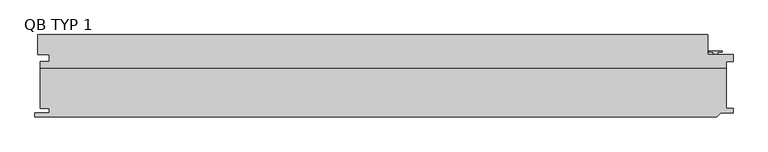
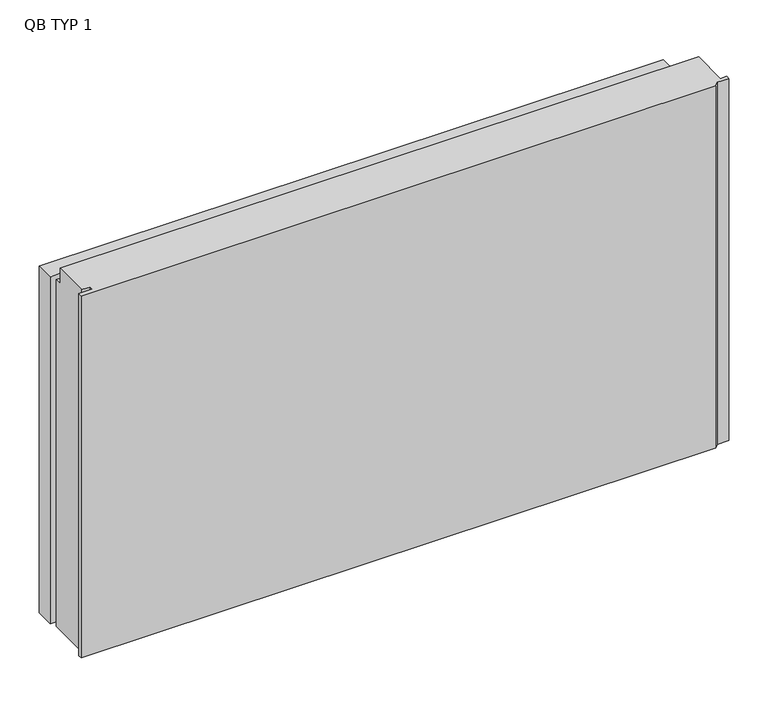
"""IFC4 building model written with IfcOpenShell, lengths in millimetres: plate geometry, TR_C_V_QBISS_Panel : QB TYP 1."""

from ifc_helpers import new_model, si_unit, frame, origin, place, context, project, spatial, polyline, outline, extrude, faceted_brep, source, transform, mapped, element, save


def qb_typ_1_ffcf64b0(model_context):
    return source(origin(), model_context, "Body", "SolidModel", [
        faceted_brep([(-500.0, -108.0, 612.4), (-487.0, -108.0, 612.4), (-487.0, -114.0, 612.4), (-508.0, -114.0, 612.4), (-508.0, -120.0, 612.4), (486.0, -120.0, 612.4), (492.0, -114.0, 612.4), (510.0, -114.0, 612.4), (510.0, -108.0, 612.4), (500.0, -108.0, 612.4), (500.0, -49.0, 612.4), (-500.0, -49.0, 612.4), (500.0, -108.0, 12.5), (510.0, -108.0, 12.5), (510.0, -114.0, 12.5), (492.0, -114.0, 12.5), (486.0, -120.0, 12.5), (-508.0, -120.0, 12.5), (-508.0, -114.0, 12.5), (-487.0, -114.0, 12.5), (-487.0, -108.0, 12.5), (-500.0, -108.0, 12.5), (-500.0, -49.0, 12.5), (500.0, -49.0, 12.5), (-500.0, -49.0, 12.7), (500.0, -49.0, 12.7), (-500.0, -39.0, 12.7), (-487.0, -39.0, 12.7), (-487.0, -29.0, 12.7), (-504.0, -29.0, 12.7), (-504.0, 0.0, 12.7), (473.0, 0.0, 12.7), (473.0, -29.0, 12.7), (510.0, -29.0, 12.7), (510.0, -39.0, 12.7), (500.0, -39.0, 12.7), (500.0, -39.0, 587.3), (500.0, -49.0, 587.3), (510.0, -39.0, 587.3), (510.0, -29.0, 587.3), (473.0, -29.0, 587.3), (473.0, 0.0, 587.3), (-504.0, 0.0, 587.3), (-504.0, -29.0, 587.3), (-487.0, -29.0, 587.3), (-487.0, -39.0, 587.3), (-500.0, -39.0, 587.3), (-500.0, -49.0, 587.3)], [[[0, 1, 2, 3, 4, 5, 6, 7, 8, 9, 10, 11]], [[12, 13, 14, 15, 16, 17, 18, 19, 20, 21, 22, 23]], [[24, 25, 23, 22]], [[25, 24, 26, 27, 28, 29, 30, 31, 32, 33, 34, 35]], [[1, 0, 21, 20]], [[2, 1, 20, 19]], [[3, 2, 19, 18]], [[4, 3, 18, 17]], [[5, 4, 17, 16]], [[6, 5, 16, 15]], [[7, 6, 15, 14]], [[8, 7, 14, 13]], [[9, 8, 13, 12]], [[9, 12, 23, 25, 35, 36, 37, 10]], [[35, 34, 38, 36]], [[34, 33, 39, 38]], [[33, 32, 40, 39]], [[32, 31, 41, 40]], [[31, 30, 42, 41]], [[30, 29, 43, 42]], [[29, 28, 44, 43]], [[28, 27, 45, 44]], [[27, 26, 46, 45]], [[21, 0, 11, 47, 46, 26, 24, 22]], [[37, 47, 11, 10]], [[47, 37, 36, 38, 39, 40, 41, 42, 43, 44, 45, 46]]]),
        extrude(outline(polyline([(494.5, -24.0), (494.5, -25.4998317), (487.7023593, -25.4998317), (487.7023593, -27.9998293), (488.5023593, -27.9998293), (488.5023593, -28.7998428), (480.5023028, -28.7998428), (480.5023028, -27.9998293), (481.3023028, -27.9998293), (481.3023028, -25.4998317), (474.5, -25.4998317), (474.5, -24.0), (494.5, -24.0)])), frame((0.0, 0.0, 12.5), z_axis=(0.0, 0.0, 1.0), x_axis=(1.0, 0.0, 0.0)), (0.0, 0.0, 1.0), 575.0),
        extrude(outline(polyline([(-48.2, -11.7), (-44.0, -11.7), (-44.0, -12.5), (-49.0, -12.5), (-49.0, 12.7), (-48.2, 12.7), (-48.2, -11.7)])), frame((-446.0, 0.0, 0.0), z_axis=(1.0, 0.0, 0.0), x_axis=(0.0, 1.0, 0.0)), (0.0, 0.0, 1.0), 862.0),
    ])


if __name__ == "__main__":
    model = new_model("IFC4")
    model_context = context("Model", 3, world=origin())
    ifc_project = project(units=[si_unit("LENGTHUNIT", "METRE", prefix="MILLI")], contexts=[model_context])
    site = spatial("IfcSite", under=ifc_project)
    building = spatial("IfcBuilding", under=site)
    placement = place(None, origin())
    qb_typ_1_shape = qb_typ_1_ffcf64b0(model_context)
    element("IfcPlate", 1, ObjectType="TR_C_V_QBISS_Panel : QB TYP 1", at=placement, inside=building, context=model_context, shape_type="MappedRepresentation", body=[
        mapped(qb_typ_1_shape, transform((0.0, 0.0, 0.0), x_axis=(1.0, 0.0, 0.0), y_axis=(0.0, 1.0, 0.0), z_axis=(0.0, 0.0, 1.0))),
    ])
    save(model, "model.ifc")
